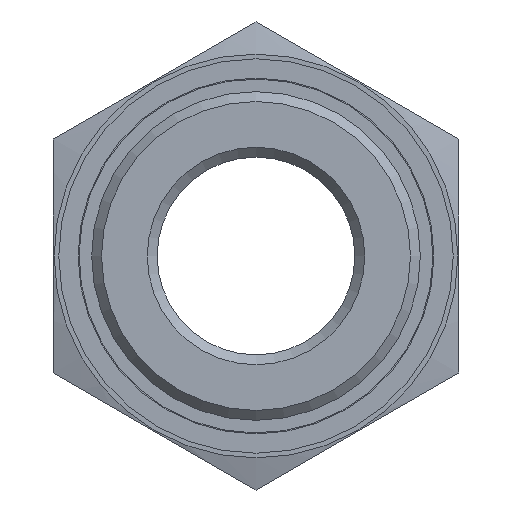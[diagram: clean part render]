
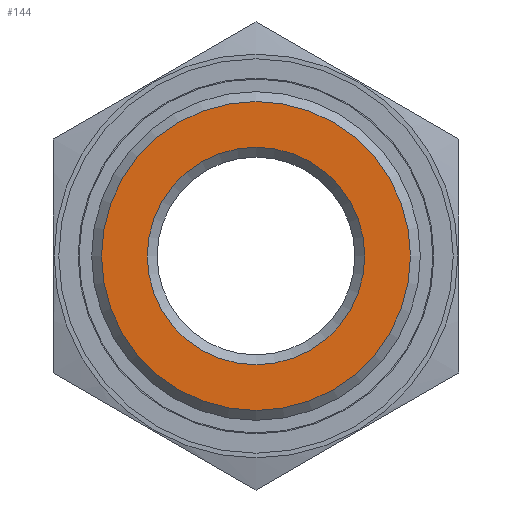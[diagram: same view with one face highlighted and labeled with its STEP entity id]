
A CAD part, left-side view. The second image highlights one B-rep face of the part: STEP entity #144.
In plain terms, the highlighted planar face has unit normal (-1, 0, 0).
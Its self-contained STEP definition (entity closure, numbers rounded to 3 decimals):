
#144 = ADVANCED_FACE( '', ( #292, #293 ), #294, .T. );
#292 = FACE_BOUND( '', #452, .T. );
#293 = FACE_OUTER_BOUND( '', #453, .T. );
#294 = PLANE( '', #454 );
#452 = EDGE_LOOP( '', ( #657 ) );
#453 = EDGE_LOOP( '', ( #658 ) );
#454 = AXIS2_PLACEMENT_3D( '', #659, #660, #661 );
#657 = ORIENTED_EDGE( '', *, *, #835, .T. );
#658 = ORIENTED_EDGE( '', *, *, #836, .T. );
#659 = CARTESIAN_POINT( '', ( -53., -20.5, -11.836 ) );
#660 = DIRECTION( '', ( -1., 0., 0. ) );
#661 = DIRECTION( '', ( 0., -1., 0. ) );
#835 = EDGE_CURVE( '', #958, #958, #959, .F. );
#836 = EDGE_CURVE( '', #960, #960, #961, .T. );
#958 = VERTEX_POINT( '', #1176 );
#959 = CIRCLE( '', #1177, 11. );
#960 = VERTEX_POINT( '', #1178 );
#961 = CIRCLE( '', #1179, 15.625 );
#1176 = CARTESIAN_POINT( '', ( -53., -11., 0. ) );
#1177 = AXIS2_PLACEMENT_3D( '', #1307, #1308, #1309 );
#1178 = CARTESIAN_POINT( '', ( -53., -15.625, 0. ) );
#1179 = AXIS2_PLACEMENT_3D( '', #1310, #1311, #1312 );
#1307 = CARTESIAN_POINT( '', ( -53., 0., 0. ) );
#1308 = DIRECTION( '', ( -1., 0., 0. ) );
#1309 = DIRECTION( '', ( 0., -1., 0. ) );
#1310 = CARTESIAN_POINT( '', ( -53., 0., 0. ) );
#1311 = DIRECTION( '', ( -1., 0., 0. ) );
#1312 = DIRECTION( '', ( 0., -1., 0. ) );
